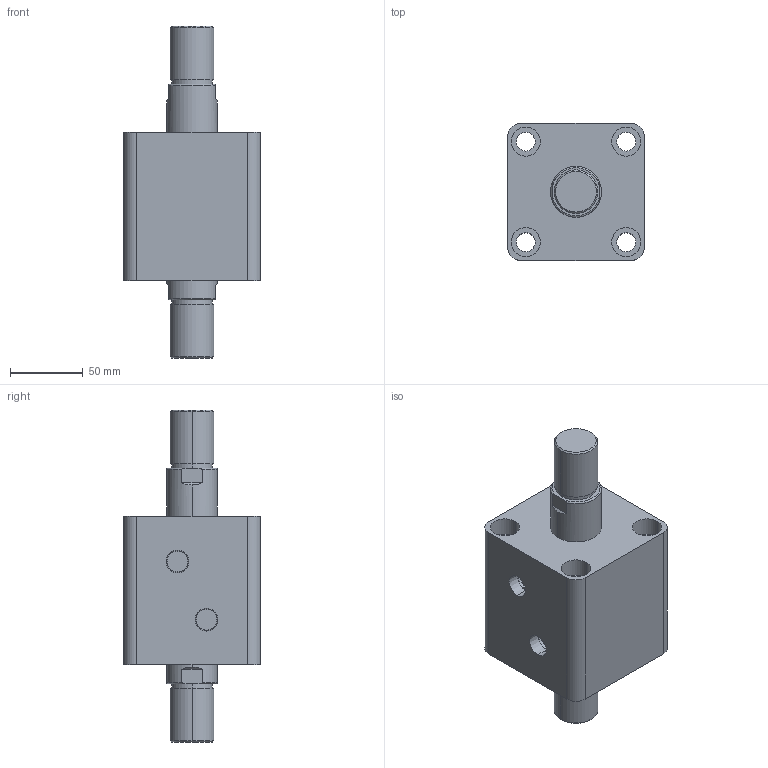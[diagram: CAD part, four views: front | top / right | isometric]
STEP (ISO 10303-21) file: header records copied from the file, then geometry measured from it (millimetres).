
FILE_DESCRIPTION (( 'STEP AP203' ), '1' );
FILE_NAME ('HTB-SW63-20W.STEP', '2019-10-07T10:02:52', ( '微软用户' ), ( '微软中国' ), 'SwSTEP 2.0', 'SolidWorks 2012', '' );
FILE_SCHEMA (( 'CONFIG_CONTROL_DESIGN' ));
Length unit declared in the file: millimetre
Products named in the file (3): HTB-SW63-20W; HTB-SW63-20W活塞杆; HTB-SW63-20掛极
Assembly tree (2 placements, depth 2):
  HTB-SW63-20W
    HTB-SW63-20掛极
    HTB-SW63-20W活塞杆
Bounding box: 94 x 94 x 228 mm (x, y, z)
Volume: 873845.9 mm3; surface area: 121911.7 mm2
Topology: 2 solids, 2 shells, 108 faces, 240 edges, 156 vertices
Faces by surface type: cylinder 52, plane 36, torus 12, cone 8
Entity records: 3465 total; most frequent: CARTESIAN_POINT 645, DIRECTION 586, ORIENTED_EDGE 480, AXIS2_PLACEMENT_3D 249, EDGE_CURVE 240, VERTEX_POINT 156, EDGE_LOOP 138, CIRCLE 136
